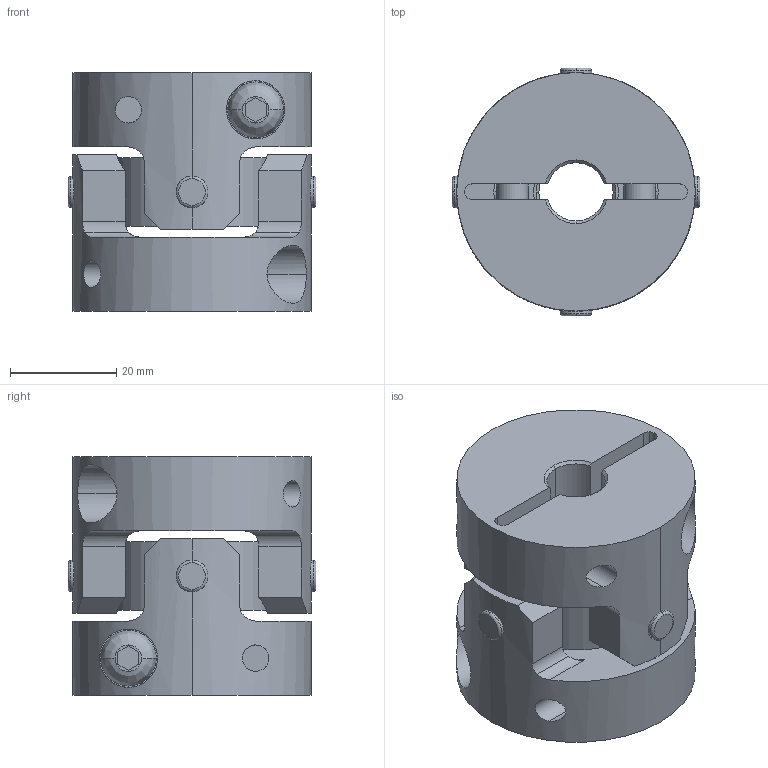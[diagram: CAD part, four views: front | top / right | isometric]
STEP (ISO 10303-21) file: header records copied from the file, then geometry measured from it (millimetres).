
FILE_DESCRIPTION((''),'2;1');
FILE_NAME('UA-45C-11×14.stp','2013-05-22T10:25:21',(''),(''),'AutoCAD STEP 2000i','AutoCAD 2000i',', , ');
FILE_SCHEMA(('CONFIG_CONTROL_DESIGN'));
Length unit declared in the file: millimetre
Products named in the file (6): UA-45C-8×8; 忣兜1; UA-4502-D08-1; BTN-M6; UA-4502-D08; UA45-SEN
Assembly tree (6 placements, depth 3):
  UA-45C-8×8
    忣兜1
    UA-4502-D08-1
      BTN-M6
    UA-4502-D08
      BTN-M6
    UA45-SEN
Bounding box: 46.73 x 46.73 x 45 mm (x, y, z)
Volume: 49994.8 mm3; surface area: 20238.7 mm2
Topology: 1 solids, 1 shells, 206 faces, 554 edges, 364 vertices
Faces by surface type: cylinder 96, plane 78, cone 16, bspline 8, torus 8
Entity records: 8523 total; most frequent: CARTESIAN_POINT 3207, ORIENTED_EDGE 1108, DIRECTION 1064, EDGE_CURVE 554, AXIS2_PLACEMENT_3D 409, VERTEX_POINT 364, VECTOR 246, LINE 246
